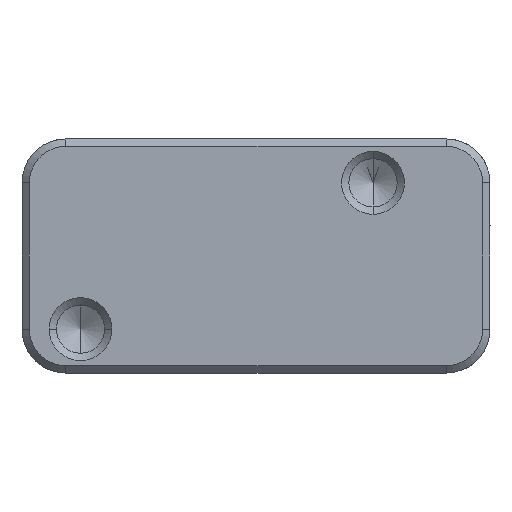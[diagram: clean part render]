
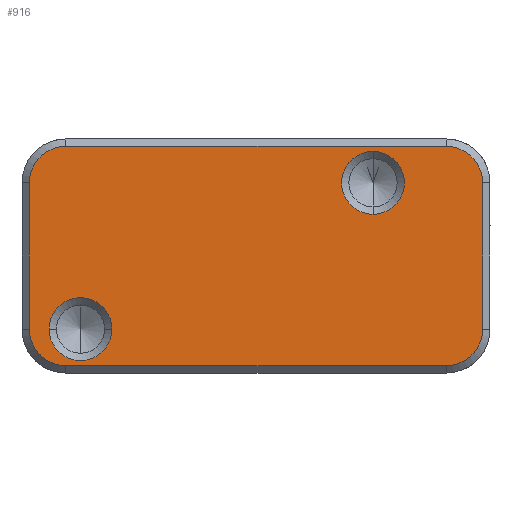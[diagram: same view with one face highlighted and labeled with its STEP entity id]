
A CAD part, front view. The second image highlights one B-rep face of the part: STEP entity #916.
In plain terms, the highlighted planar face has unit normal (0, -1, 0).
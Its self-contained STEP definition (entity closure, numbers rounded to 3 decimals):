
#60 = AXIS2_PLACEMENT_3D ( 'NONE', #4263, #12381, #9039 ) ;
#256 = CIRCLE ( 'NONE', #10481, 2.5 ) ;
#319 = ORIENTED_EDGE ( 'NONE', *, *, #7597, .T. ) ;
#420 = EDGE_CURVE ( 'NONE', #9711, #9674, #256, .T. ) ;
#424 = ORIENTED_EDGE ( 'NONE', *, *, #2138, .T. ) ;
#465 = AXIS2_PLACEMENT_3D ( 'NONE', #6786, #7999, #12301 ) ;
#490 = CARTESIAN_POINT ( 'NONE',  ( 13., 0., 7.5 ) ) ;
#514 = AXIS2_PLACEMENT_3D ( 'NONE', #10841, #7706, #634 ) ;
#587 = CARTESIAN_POINT ( 'NONE',  ( -14.15, 0., -5. ) ) ;
#634 = DIRECTION ( 'NONE',  ( 0., 0., -1. ) ) ;
#657 = LINE ( 'NONE', #2897, #14602 ) ;
#835 = EDGE_LOOP ( 'NONE', ( #13083, #1420 ) ) ;
#916 = ADVANCED_FACE ( 'NONE', ( #1752, #12091, #13288 ), #5100, .T. ) ;
#946 = CARTESIAN_POINT ( 'NONE',  ( -13., 0., 7.5 ) ) ;
#972 = VECTOR ( 'NONE', #3315, 1000. ) ;
#1420 = ORIENTED_EDGE ( 'NONE', *, *, #2721, .T. ) ;
#1422 = VERTEX_POINT ( 'NONE', #946 ) ;
#1471 = CIRCLE ( 'NONE', #9329, 2.15 ) ;
#1690 = VERTEX_POINT ( 'NONE', #1971 ) ;
#1752 = FACE_OUTER_BOUND ( 'NONE', #9376, .T. ) ;
#1839 = CARTESIAN_POINT ( 'NONE',  ( -15.5, 0., 5. ) ) ;
#1856 = EDGE_CURVE ( 'NONE', #7644, #1690, #1471, .T. ) ;
#1971 = CARTESIAN_POINT ( 'NONE',  ( -9.85, 0., -5. ) ) ;
#2107 = DIRECTION ( 'NONE',  ( 0., 0., -1. ) ) ;
#2138 = EDGE_CURVE ( 'NONE', #4145, #14157, #14007, .T. ) ;
#2250 = VERTEX_POINT ( 'NONE', #4597 ) ;
#2393 = VERTEX_POINT ( 'NONE', #490 ) ;
#2551 = DIRECTION ( 'NONE',  ( 0., 0., -1. ) ) ;
#2721 = EDGE_CURVE ( 'NONE', #14298, #12250, #10979, .T. ) ;
#2897 = CARTESIAN_POINT ( 'NONE',  ( -16., 0., 7.5 ) ) ;
#3234 = VERTEX_POINT ( 'NONE', #14132 ) ;
#3315 = DIRECTION ( 'NONE',  ( 0., 0., 1. ) ) ;
#3393 = CARTESIAN_POINT ( 'NONE',  ( 8., 0., 2.85 ) ) ;
#3646 = AXIS2_PLACEMENT_3D ( 'NONE', #6187, #9622, #12002 ) ;
#4070 = DIRECTION ( 'NONE',  ( 0., -1., 0. ) ) ;
#4095 = DIRECTION ( 'NONE',  ( -1., 0., 0. ) ) ;
#4145 = VERTEX_POINT ( 'NONE', #1839 ) ;
#4263 = CARTESIAN_POINT ( 'NONE',  ( -12., 0., -5. ) ) ;
#4504 = VECTOR ( 'NONE', #4095, 1000. ) ;
#4557 = CARTESIAN_POINT ( 'NONE',  ( 8., 0., 5. ) ) ;
#4597 = CARTESIAN_POINT ( 'NONE',  ( -13., 0., -7.5 ) ) ;
#4614 = CARTESIAN_POINT ( 'NONE',  ( 13., 0., -5. ) ) ;
#4727 = EDGE_CURVE ( 'NONE', #12250, #14298, #9114, .T. ) ;
#4790 = VECTOR ( 'NONE', #2551, 1000. ) ;
#4859 = DIRECTION ( 'NONE',  ( 0., 1., 0. ) ) ;
#4932 = DIRECTION ( 'NONE',  ( 1., 0., 0. ) ) ;
#5056 = ORIENTED_EDGE ( 'NONE', *, *, #13064, .T. ) ;
#5064 = EDGE_CURVE ( 'NONE', #1422, #4145, #6001, .T. ) ;
#5100 = PLANE ( 'NONE',  #514 ) ;
#5356 = EDGE_LOOP ( 'NONE', ( #6500, #12052 ) ) ;
#5399 = DIRECTION ( 'NONE',  ( 0., 0., 1. ) ) ;
#6001 = CIRCLE ( 'NONE', #14327, 2.5 ) ;
#6032 = CARTESIAN_POINT ( 'NONE',  ( -15.5, 0., -8. ) ) ;
#6187 = CARTESIAN_POINT ( 'NONE',  ( 8., 0., 5. ) ) ;
#6500 = ORIENTED_EDGE ( 'NONE', *, *, #13652, .T. ) ;
#6541 = DIRECTION ( 'NONE',  ( 0., 1., 0. ) ) ;
#6661 = CARTESIAN_POINT ( 'NONE',  ( -15.5, 0., -5. ) ) ;
#6786 = CARTESIAN_POINT ( 'NONE',  ( 13., 0., 5. ) ) ;
#6932 = DIRECTION ( 'NONE',  ( 0., 1., 0. ) ) ;
#7432 = CARTESIAN_POINT ( 'NONE',  ( 15.5, 0., -5. ) ) ;
#7502 = DIRECTION ( 'NONE',  ( -1., 0., 0. ) ) ;
#7597 = EDGE_CURVE ( 'NONE', #2393, #1422, #657, .T. ) ;
#7644 = VERTEX_POINT ( 'NONE', #587 ) ;
#7706 = DIRECTION ( 'NONE',  ( 0., -1., 0. ) ) ;
#7999 = DIRECTION ( 'NONE',  ( 0., -1., 0. ) ) ;
#8079 = CIRCLE ( 'NONE', #465, 2.5 ) ;
#8335 = CARTESIAN_POINT ( 'NONE',  ( 13., 0., -7.5 ) ) ;
#8450 = ORIENTED_EDGE ( 'NONE', *, *, #10977, .F. ) ;
#8568 = LINE ( 'NONE', #8650, #4504 ) ;
#8650 = CARTESIAN_POINT ( 'NONE',  ( -16., 0., -7.5 ) ) ;
#8888 = ORIENTED_EDGE ( 'NONE', *, *, #13538, .F. ) ;
#9039 = DIRECTION ( 'NONE',  ( 1., 0., 0. ) ) ;
#9114 = CIRCLE ( 'NONE', #3646, 2.15 ) ;
#9329 = AXIS2_PLACEMENT_3D ( 'NONE', #9630, #4859, #4932 ) ;
#9348 = DIRECTION ( 'NONE',  ( 0., 0., 1. ) ) ;
#9376 = EDGE_LOOP ( 'NONE', ( #8888, #13715, #5056, #11761, #319, #14050, #424, #8450 ) ) ;
#9489 = CIRCLE ( 'NONE', #12339, 2.5 ) ;
#9622 = DIRECTION ( 'NONE',  ( 0., 1., 0. ) ) ;
#9630 = CARTESIAN_POINT ( 'NONE',  ( -12., 0., -5. ) ) ;
#9674 = VERTEX_POINT ( 'NONE', #8335 ) ;
#9711 = VERTEX_POINT ( 'NONE', #7432 ) ;
#10481 = AXIS2_PLACEMENT_3D ( 'NONE', #4614, #6541, #13401 ) ;
#10505 = AXIS2_PLACEMENT_3D ( 'NONE', #4557, #6932, #2107 ) ;
#10687 = CARTESIAN_POINT ( 'NONE',  ( 8., 0., 7.15 ) ) ;
#10841 = CARTESIAN_POINT ( 'NONE',  ( -16., 0., -8. ) ) ;
#10977 = EDGE_CURVE ( 'NONE', #2250, #14157, #9489, .T. ) ;
#10979 = CIRCLE ( 'NONE', #10505, 2.15 ) ;
#11761 = ORIENTED_EDGE ( 'NONE', *, *, #13459, .T. ) ;
#12002 = DIRECTION ( 'NONE',  ( 0., 0., -1. ) ) ;
#12052 = ORIENTED_EDGE ( 'NONE', *, *, #1856, .T. ) ;
#12091 = FACE_BOUND ( 'NONE', #5356, .T. ) ;
#12250 = VERTEX_POINT ( 'NONE', #3393 ) ;
#12301 = DIRECTION ( 'NONE',  ( 0., 0., 1. ) ) ;
#12339 = AXIS2_PLACEMENT_3D ( 'NONE', #13888, #12991, #9348 ) ;
#12381 = DIRECTION ( 'NONE',  ( 0., 1., 0. ) ) ;
#12475 = CARTESIAN_POINT ( 'NONE',  ( 15.5, 0., -8. ) ) ;
#12667 = CIRCLE ( 'NONE', #60, 2.15 ) ;
#12991 = DIRECTION ( 'NONE',  ( 0., 1., 0. ) ) ;
#13064 = EDGE_CURVE ( 'NONE', #9711, #3234, #13673, .T. ) ;
#13083 = ORIENTED_EDGE ( 'NONE', *, *, #4727, .T. ) ;
#13288 = FACE_BOUND ( 'NONE', #835, .T. ) ;
#13401 = DIRECTION ( 'NONE',  ( 0., 0., 1. ) ) ;
#13459 = EDGE_CURVE ( 'NONE', #3234, #2393, #8079, .T. ) ;
#13538 = EDGE_CURVE ( 'NONE', #9674, #2250, #8568, .T. ) ;
#13652 = EDGE_CURVE ( 'NONE', #1690, #7644, #12667, .T. ) ;
#13673 = LINE ( 'NONE', #12475, #972 ) ;
#13715 = ORIENTED_EDGE ( 'NONE', *, *, #420, .F. ) ;
#13888 = CARTESIAN_POINT ( 'NONE',  ( -13., 0., -5. ) ) ;
#14007 = LINE ( 'NONE', #6032, #4790 ) ;
#14050 = ORIENTED_EDGE ( 'NONE', *, *, #5064, .T. ) ;
#14132 = CARTESIAN_POINT ( 'NONE',  ( 15.5, 0., 5. ) ) ;
#14157 = VERTEX_POINT ( 'NONE', #6661 ) ;
#14298 = VERTEX_POINT ( 'NONE', #10687 ) ;
#14327 = AXIS2_PLACEMENT_3D ( 'NONE', #14491, #4070, #5399 ) ;
#14491 = CARTESIAN_POINT ( 'NONE',  ( -13., 0., 5. ) ) ;
#14602 = VECTOR ( 'NONE', #7502, 1000. ) ;
